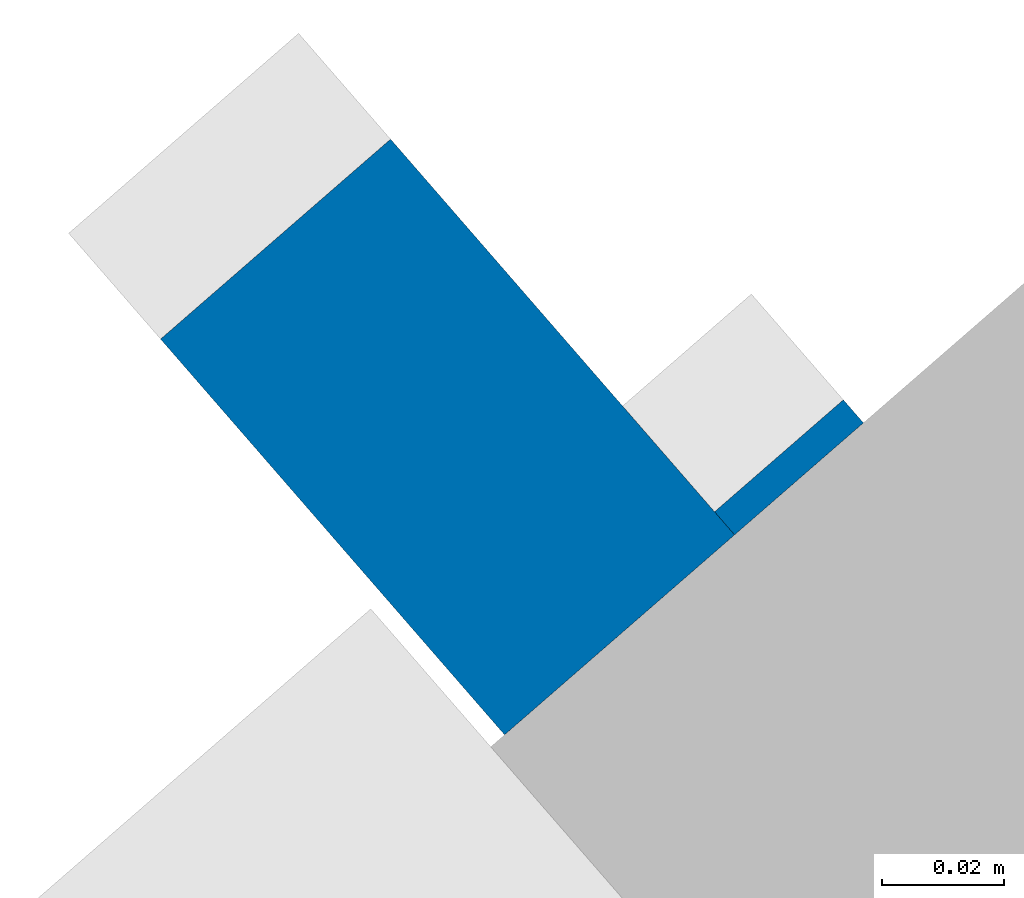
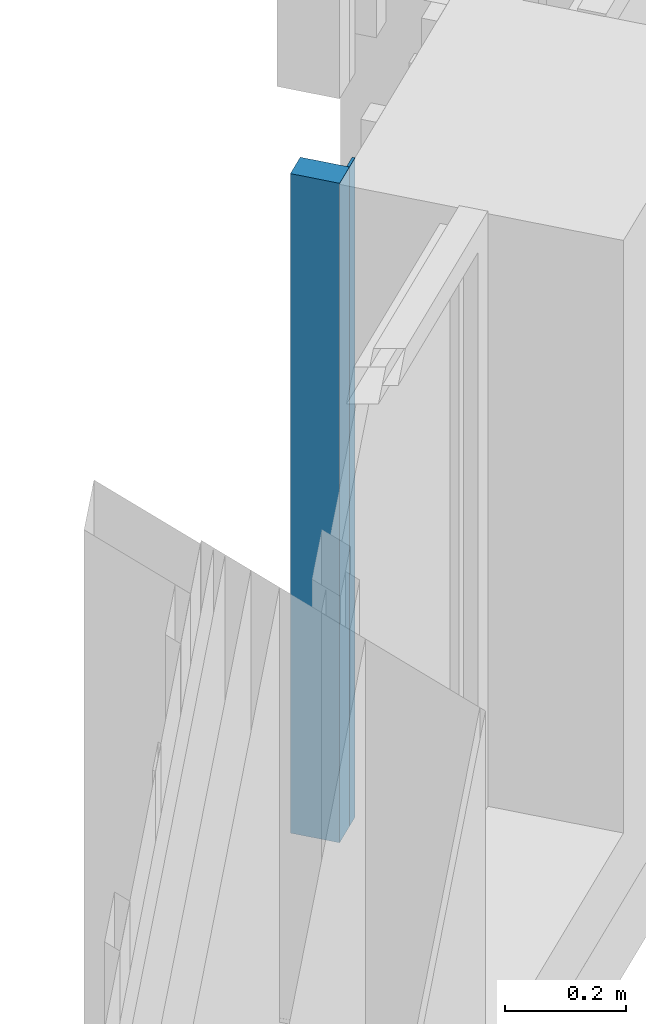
# One storey, part 234 of 390: 2 walls.
"""IFC2X3 building model written with IfcOpenShell, lengths in millimetres."""

from ifc_helpers import new_model, entity, si_unit, converted_unit, derived_unit, money_unit, direction, frame, origin_with_axes, place, context, subcontext, project, spatial, faceted_brep, material, type_object, element, save


model = new_model("IFC2X3")

# Units and contexts
model_context = context("Model", 3, precision=1e-05, world=origin_with_axes(), true_north=direction((0.0, 1.0)))
body_context = subcontext(model_context, "Body", "Model", "MODEL_VIEW")
ifc_project = project(units=[si_unit("LENGTHUNIT", "METRE", prefix="MILLI"), si_unit("AREAUNIT", "SQUARE_METRE"), si_unit("VOLUMEUNIT", "CUBIC_METRE"), converted_unit("PLANEANGLEUNIT", "DEGREE", entity("IfcPlaneAngleMeasure", 0.0174532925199), si_unit("PLANEANGLEUNIT", "RADIAN"), dimensions=[0, 0, 0, 0, 0, 0, 0]), si_unit("SOLIDANGLEUNIT", "STERADIAN"), money_unit("EUR"), converted_unit("TIMEUNIT", "Year", entity("IfcTimeMeasure", 31556926.0), si_unit("TIMEUNIT", "SECOND"), dimensions=[0, 0, 1, 0, 0, 0, 0]), si_unit("MASSUNIT", "GRAM", prefix="KILO"), si_unit("THERMODYNAMICTEMPERATUREUNIT", "DEGREE_CELSIUS"), si_unit("LUMINOUSINTENSITYUNIT", "LUMEN"), si_unit("ENERGYUNIT", "JOULE", prefix="MEGA"), derived_unit("THERMALCONDUCTANCEUNIT", [(si_unit("POWERUNIT", "WATT"), 1), (si_unit("LENGTHUNIT", "METRE"), -1), (si_unit("THERMODYNAMICTEMPERATUREUNIT", "KELVIN"), -1)]), derived_unit("SPECIFICHEATCAPACITYUNIT", [(si_unit("ENERGYUNIT", "JOULE"), 1), (si_unit("MASSUNIT", "GRAM", prefix="KILO"), -1), (si_unit("THERMODYNAMICTEMPERATUREUNIT", "KELVIN"), -1)]), derived_unit("MASSDENSITYUNIT", [(si_unit("MASSUNIT", "GRAM", prefix="KILO"), 1), (si_unit("VOLUMEUNIT", "CUBIC_METRE"), -1)])], contexts=[model_context])

# Site, building, storey
site_placement = place(None, origin_with_axes())
site = spatial("IfcSite", under=ifc_project, at=site_placement, Name="Site", CompositionType="ELEMENT")
building_placement = place(site_placement, origin_with_axes())
building = spatial("IfcBuilding", under=site, at=building_placement, Name="Building", CompositionType="ELEMENT")
storey_placement = place(building_placement, origin_with_axes())
storey = spatial("IfcBuildingStorey", under=building, at=storey_placement, Name="1 korrus", CompositionType="ELEMENT", Elevation=0.0)

# Walls
ifc_material = material(Name="Site specified")
wall_type = type_object("IfcWallType", Name="Puitfassaadi ribistik", PredefinedType="NOTDEFINED")
wall_1_placement = place(storey_placement, frame((141051.955397, 92605.9595161, 0.0), z_axis=(0.0, 0.0, 1.0), x_axis=(0.754709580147, 0.656059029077, 0.0)))
element("IfcWall", 1, at=wall_1_placement, inside=storey, type_object=wall_type, material=ifc_material, Name="Site specified", context=body_context, shape_type="Brep", body=[
    faceted_brep([(-14.0, 14.0, 1330.0), (-14.0, 8.9882385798, 1330.0), (14.000000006, 8.9881722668, 1330.0), (14.0, 14.0, 1330.0), (-14.0, 14.0, 0.0), (-14.0, 8.98568408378, 0.0), (14.0, 8.98562068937, 0.0), (14.0, 14.0, 0.0)], [[[0, 1, 2, 3]], [[4, 5, 1, 0]], [[5, 6, 2, 1]], [[3, 2, 6, 7]], [[0, 3, 7, 4]], [[7, 6, 5, 4]]]),
])
wall_2_placement = place(storey_placement, frame((140995.951333, 92610.938952, 0.0), z_axis=(0.0, 0.0, 1.0), x_axis=(0.754709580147, 0.656059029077, 0.0)))
element("IfcWall", 2, at=wall_2_placement, inside=storey, type_object=wall_type, material=ifc_material, Name="Site specified", context=body_context, shape_type="Brep", body=[
    faceted_brep([(-25.0, 54.5, 1330.0), (-25.0, -31.5116430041, 1330.0), (25.000000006, -31.5117614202, 1330.0), (25.0, 54.5, 1330.0), (-25.0, 54.5, 0.0), (-25.0, -31.5142027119, 0.0), (25.0, -31.5143159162, 0.0), (25.0, 54.5, 0.0)], [[[0, 1, 2, 3]], [[4, 5, 1, 0]], [[5, 6, 2, 1]], [[3, 2, 6, 7]], [[0, 3, 7, 4]], [[7, 6, 5, 4]]]),
])

save(model, "model.ifc")
